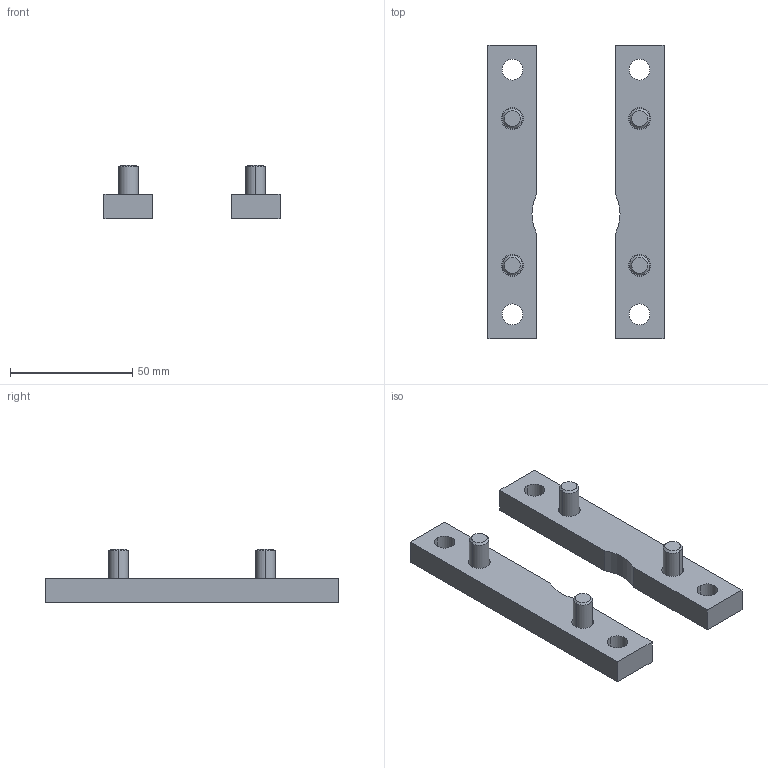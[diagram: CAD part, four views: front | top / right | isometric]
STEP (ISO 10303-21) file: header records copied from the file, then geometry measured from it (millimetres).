
FILE_DESCRIPTION (( 'STEP AP203' ), '1' );
FILE_NAME ('MJ1-BL.STEP', '2024-01-16T10:20:49', ( '' ), ( '' ), 'SwSTEP 2.0', 'SolidWorks 2022', '' );
FILE_SCHEMA (( 'CONFIG_CONTROL_DESIGN' ));
Length unit declared in the file: millimetre
Products named in the file (1): MJ1-BL
Bounding box: 72 x 120 x 22 mm (x, y, z)
Volume: 45462.9 mm3; surface area: 20476.7 mm2
Topology: 6 solids, 6 shells, 128 faces, 316 edges, 204 vertices
Faces by surface type: plane 54, cylinder 42, torus 16, cone 16
Entity records: 3847 total; most frequent: CARTESIAN_POINT 705, DIRECTION 674, ORIENTED_EDGE 616, EDGE_CURVE 308, AXIS2_PLACEMENT_3D 269, VERTEX_POINT 204, EDGE_LOOP 156, CIRCLE 140
